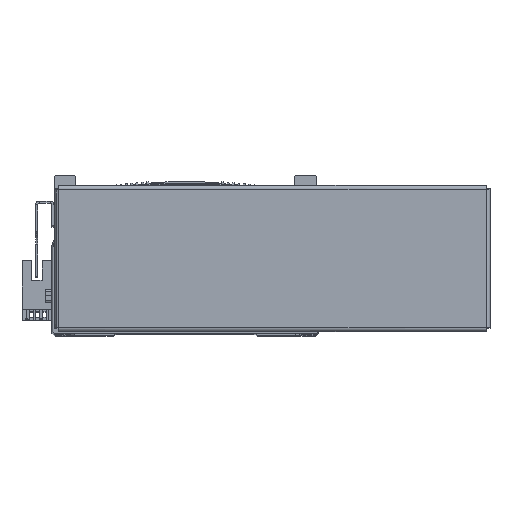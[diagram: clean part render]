
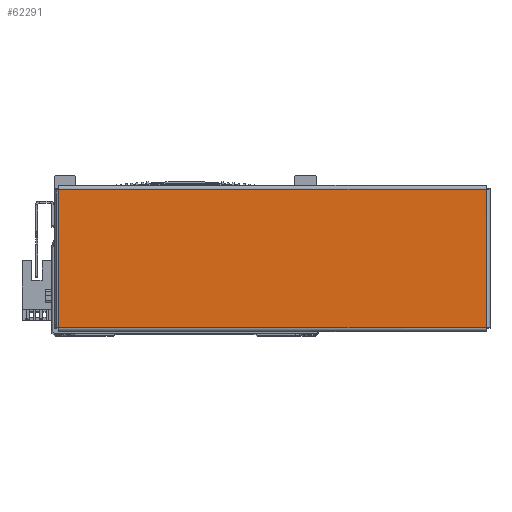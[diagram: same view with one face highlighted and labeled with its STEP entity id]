
A CAD part, top view. The second image highlights one B-rep face of the part: STEP entity #62291.
In plain terms, the highlighted planar face has unit normal (0, 0, 1) as drawn and (0, 0, -1) by its records, which use the part's own axes.
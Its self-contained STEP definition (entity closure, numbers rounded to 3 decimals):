
#3578 = VERTEX_POINT ( 'NONE', #10666 ) ;
#4902 = ORIENTED_EDGE ( 'NONE', *, *, #48301, .T. ) ;
#4910 = ORIENTED_EDGE ( 'NONE', *, *, #48264, .T. ) ;
#4934 = ORIENTED_EDGE ( 'NONE', *, *, #48306, .T. ) ;
#4942 = ORIENTED_EDGE ( 'NONE', *, *, #48366, .T. ) ;
#9719 = EDGE_LOOP ( 'NONE', ( #4902, #4934, #4910, #4942 ) ) ;
#10666 = CARTESIAN_POINT ( 'NONE',  ( 97.863, 31.763, -1. ) ) ;
#21335 = FACE_OUTER_BOUND ( 'NONE', #9719, .T. ) ;
#22271 = CARTESIAN_POINT ( 'NONE',  ( 97.863, -31.763, -1. ) ) ;
#22285 = CARTESIAN_POINT ( 'NONE',  ( -97.863, 31.763, -1. ) ) ;
#22310 = CARTESIAN_POINT ( 'NONE',  ( -97.863, -31.763, -1. ) ) ;
#23472 = DIRECTION ( 'NONE',  ( 1., 0., 0. ) ) ;
#23491 = PLANE ( 'NONE',  #63648 ) ;
#23496 = CARTESIAN_POINT ( 'NONE',  ( 0., 0., -1. ) ) ;
#23497 = DIRECTION ( 'NONE',  ( 0., 0., 1. ) ) ;
#26539 = LINE ( 'NONE', #30457, #26557 ) ;
#26545 = VECTOR ( 'NONE', #30368, 1000. ) ;
#26557 = VECTOR ( 'NONE', #30427, 1000. ) ;
#26593 = LINE ( 'NONE', #30363, #26545 ) ;
#26673 = VECTOR ( 'NONE', #30497, 1000. ) ;
#26720 = LINE ( 'NONE', #30463, #26673 ) ;
#26780 = LINE ( 'NONE', #30686, #26813 ) ;
#26813 = VECTOR ( 'NONE', #30674, 1000. ) ;
#30363 = CARTESIAN_POINT ( 'NONE',  ( -97.863, -31.793, -1. ) ) ;
#30368 = DIRECTION ( 'NONE',  ( 0., 1., 0. ) ) ;
#30427 = DIRECTION ( 'NONE',  ( 0., -1., 0. ) ) ;
#30457 = CARTESIAN_POINT ( 'NONE',  ( 97.863, 31.793, -1. ) ) ;
#30463 = CARTESIAN_POINT ( 'NONE',  ( 97.893, -31.763, -1. ) ) ;
#30497 = DIRECTION ( 'NONE',  ( -1., 0., 0. ) ) ;
#30674 = DIRECTION ( 'NONE',  ( 1., 0., 0. ) ) ;
#30686 = CARTESIAN_POINT ( 'NONE',  ( -97.893, 31.763, -1. ) ) ;
#48264 = EDGE_CURVE ( 'NONE', #51714, #51717, #26593, .T. ) ;
#48301 = EDGE_CURVE ( 'NONE', #3578, #51614, #26539, .T. ) ;
#48306 = EDGE_CURVE ( 'NONE', #51614, #51714, #26720, .T. ) ;
#48366 = EDGE_CURVE ( 'NONE', #51717, #3578, #26780, .T. ) ;
#51614 = VERTEX_POINT ( 'NONE', #22271 ) ;
#51714 = VERTEX_POINT ( 'NONE', #22310 ) ;
#51717 = VERTEX_POINT ( 'NONE', #22285 ) ;
#62291 = ADVANCED_FACE ( 'NONE', ( #21335 ), #23491, .F. ) ;
#63648 = AXIS2_PLACEMENT_3D ( 'NONE', #23496, #23497, #23472 ) ;
